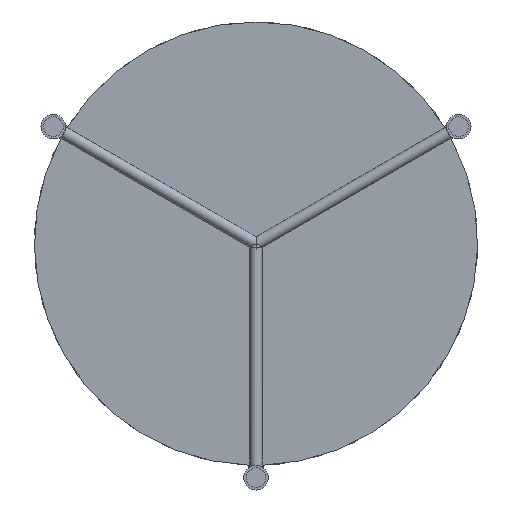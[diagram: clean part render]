
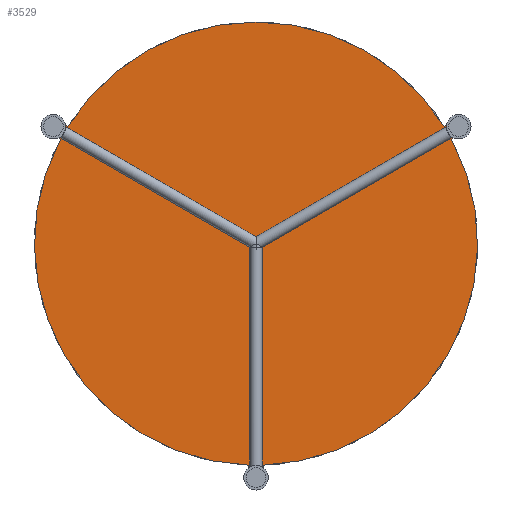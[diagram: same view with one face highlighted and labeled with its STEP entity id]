
A CAD part, front view. The second image highlights one B-rep face of the part: STEP entity #3529.
In plain terms, the highlighted planar face has unit normal (0, -1, 0).
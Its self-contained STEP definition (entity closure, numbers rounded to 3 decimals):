
#3 = EDGE_CURVE ( 'NONE', #3190, #1423, #3263, .T. ) ;
#47 = DIRECTION ( 'NONE',  ( 0., 0., -1. ) ) ;
#57 = VERTEX_POINT ( 'NONE', #2109 ) ;
#83 = DIRECTION ( 'NONE',  ( 0., 0., -1. ) ) ;
#131 = LINE ( 'NONE', #2895, #2697 ) ;
#226 = LINE ( 'NONE', #3043, #2772 ) ;
#247 = CIRCLE ( 'NONE', #3925, 10. ) ;
#278 = CARTESIAN_POINT ( 'NONE',  ( -152.798, 399., 95.146 ) ) ;
#299 = ORIENTED_EDGE ( 'NONE', *, *, #3972, .T. ) ;
#343 = CARTESIAN_POINT ( 'NONE',  ( 152.798, 399., 95.146 ) ) ;
#359 = DIRECTION ( 'NONE',  ( 0., 1., 0. ) ) ;
#362 = EDGE_CURVE ( 'NONE', #57, #1937, #3266, .T. ) ;
#375 = EDGE_CURVE ( 'NONE', #1132, #4133, #3226, .T. ) ;
#411 = VERTEX_POINT ( 'NONE', #2810 ) ;
#434 = EDGE_CURVE ( 'NONE', #2822, #57, #1760, .T. ) ;
#475 = AXIS2_PLACEMENT_3D ( 'NONE', #2046, #3164, #3120 ) ;
#506 = ORIENTED_EDGE ( 'NONE', *, *, #2373, .T. ) ;
#545 = AXIS2_PLACEMENT_3D ( 'NONE', #2568, #2250, #3615 ) ;
#562 = EDGE_CURVE ( 'NONE', #1423, #2260, #1874, .T. ) ;
#579 = ORIENTED_EDGE ( 'NONE', *, *, #3292, .T. ) ;
#656 = DIRECTION ( 'NONE',  ( 0., -1., 0. ) ) ;
#674 = DIRECTION ( 'NONE',  ( -0.866, 0., 0.5 ) ) ;
#830 = CARTESIAN_POINT ( 'NONE',  ( -160.677, 399., 85.839 ) ) ;
#852 = DIRECTION ( 'NONE',  ( 0., 0., -1. ) ) ;
#874 = CIRCLE ( 'NONE', #1074, 180. ) ;
#1074 = AXIS2_PLACEMENT_3D ( 'NONE', #1160, #2212, #83 ) ;
#1090 = VERTEX_POINT ( 'NONE', #4393 ) ;
#1092 = EDGE_CURVE ( 'NONE', #411, #2822, #3841, .T. ) ;
#1113 = ORIENTED_EDGE ( 'NONE', *, *, #1092, .T. ) ;
#1132 = VERTEX_POINT ( 'NONE', #278 ) ;
#1160 = CARTESIAN_POINT ( 'NONE',  ( 0., 399., 0. ) ) ;
#1163 = AXIS2_PLACEMENT_3D ( 'NONE', #3541, #359, #47 ) ;
#1174 = CARTESIAN_POINT ( 'NONE',  ( 0., 399., 0. ) ) ;
#1197 = CARTESIAN_POINT ( 'NONE',  ( -164.605, 399., 95.035 ) ) ;
#1204 = ORIENTED_EDGE ( 'NONE', *, *, #562, .T. ) ;
#1276 = ORIENTED_EDGE ( 'NONE', *, *, #362, .T. ) ;
#1287 = VECTOR ( 'NONE', #674, 1000. ) ;
#1343 = CARTESIAN_POINT ( 'NONE',  ( 0., 399., 0. ) ) ;
#1418 = EDGE_CURVE ( 'NONE', #4133, #2458, #247, .T. ) ;
#1423 = VERTEX_POINT ( 'NONE', #1646 ) ;
#1470 = DIRECTION ( 'NONE',  ( -0.866, 0., -0.5 ) ) ;
#1538 = VERTEX_POINT ( 'NONE', #4444 ) ;
#1646 = CARTESIAN_POINT ( 'NONE',  ( 158.798, 399., 84.754 ) ) ;
#1737 = CARTESIAN_POINT ( 'NONE',  ( -161.605, 399., 100.231 ) ) ;
#1760 = LINE ( 'NONE', #3171, #3839 ) ;
#1861 = CARTESIAN_POINT ( 'NONE',  ( -6., 399., -179.9 ) ) ;
#1874 = LINE ( 'NONE', #1904, #3340 ) ;
#1904 = CARTESIAN_POINT ( 'NONE',  ( 167.605, 399., 89.839 ) ) ;
#1937 = VERTEX_POINT ( 'NONE', #3724 ) ;
#1985 = DIRECTION ( 'NONE',  ( 0., 0., -1. ) ) ;
#2046 = CARTESIAN_POINT ( 'NONE',  ( 0., 399., 0. ) ) ;
#2109 = CARTESIAN_POINT ( 'NONE',  ( -6., 399., -182.07 ) ) ;
#2212 = DIRECTION ( 'NONE',  ( 0., -1., 0. ) ) ;
#2213 = ORIENTED_EDGE ( 'NONE', *, *, #434, .T. ) ;
#2250 = DIRECTION ( 'NONE',  ( 0., -1., 0. ) ) ;
#2260 = VERTEX_POINT ( 'NONE', #2756 ) ;
#2337 = DIRECTION ( 'NONE',  ( 0., 1., 0. ) ) ;
#2351 = DIRECTION ( 'NONE',  ( 0., 0., 1. ) ) ;
#2353 = PLANE ( 'NONE',  #3644 ) ;
#2373 = EDGE_CURVE ( 'NONE', #1090, #1132, #2538, .T. ) ;
#2458 = VERTEX_POINT ( 'NONE', #830 ) ;
#2538 = CIRCLE ( 'NONE', #475, 180. ) ;
#2568 = CARTESIAN_POINT ( 'NONE',  ( 0., 399., 0. ) ) ;
#2570 = DIRECTION ( 'NONE',  ( 0., -1., 0. ) ) ;
#2575 = CARTESIAN_POINT ( 'NONE',  ( -158.798, 399., 84.754 ) ) ;
#2697 = VECTOR ( 'NONE', #1470, 1000. ) ;
#2756 = CARTESIAN_POINT ( 'NONE',  ( 160.677, 399., 85.839 ) ) ;
#2772 = VECTOR ( 'NONE', #2351, 1000. ) ;
#2789 = ORIENTED_EDGE ( 'NONE', *, *, #375, .T. ) ;
#2810 = CARTESIAN_POINT ( 'NONE',  ( -158.798, 399., 84.754 ) ) ;
#2822 = VERTEX_POINT ( 'NONE', #1861 ) ;
#2835 = EDGE_LOOP ( 'NONE', ( #2789, #4070, #579, #1113, #2213, #1276, #2949, #4501, #1204, #299, #4066, #3654, #506 ) ) ;
#2842 = VERTEX_POINT ( 'NONE', #343 ) ;
#2846 = VECTOR ( 'NONE', #3967, 1000. ) ;
#2889 = EDGE_CURVE ( 'NONE', #1538, #2842, #131, .T. ) ;
#2895 = CARTESIAN_POINT ( 'NONE',  ( 152.798, 399., 95.146 ) ) ;
#2924 = LINE ( 'NONE', #2575, #2846 ) ;
#2949 = ORIENTED_EDGE ( 'NONE', *, *, #4235, .T. ) ;
#3043 = CARTESIAN_POINT ( 'NONE',  ( 6., 399., -179.9 ) ) ;
#3120 = DIRECTION ( 'NONE',  ( 0., 0., -1. ) ) ;
#3164 = DIRECTION ( 'NONE',  ( 0., -1., 0. ) ) ;
#3171 = CARTESIAN_POINT ( 'NONE',  ( -6., 399., -190.07 ) ) ;
#3190 = VERTEX_POINT ( 'NONE', #4316 ) ;
#3226 = LINE ( 'NONE', #1737, #1287 ) ;
#3263 = CIRCLE ( 'NONE', #3913, 180. ) ;
#3266 = CIRCLE ( 'NONE', #3916, 10. ) ;
#3292 = EDGE_CURVE ( 'NONE', #2458, #411, #2924, .T. ) ;
#3300 = DIRECTION ( 'NONE',  ( 0.866, 0., 0.5 ) ) ;
#3323 = CARTESIAN_POINT ( 'NONE',  ( 0., 399., -190.07 ) ) ;
#3340 = VECTOR ( 'NONE', #3300, 1000. ) ;
#3433 = DIRECTION ( 'NONE',  ( 0., 0., -1. ) ) ;
#3529 = ADVANCED_FACE ( 'NONE', ( #4190 ), #2353, .T. ) ;
#3541 = CARTESIAN_POINT ( 'NONE',  ( 164.605, 399., 95.035 ) ) ;
#3615 = DIRECTION ( 'NONE',  ( 0., 0., -1. ) ) ;
#3644 = AXIS2_PLACEMENT_3D ( 'NONE', #1343, #656, #3433 ) ;
#3650 = CIRCLE ( 'NONE', #1163, 10. ) ;
#3654 = ORIENTED_EDGE ( 'NONE', *, *, #4055, .T. ) ;
#3682 = DIRECTION ( 'NONE',  ( 0., 0., -1. ) ) ;
#3724 = CARTESIAN_POINT ( 'NONE',  ( 6., 399., -182.07 ) ) ;
#3839 = VECTOR ( 'NONE', #4563, 1000. ) ;
#3841 = CIRCLE ( 'NONE', #545, 180. ) ;
#3913 = AXIS2_PLACEMENT_3D ( 'NONE', #1174, #2570, #852 ) ;
#3916 = AXIS2_PLACEMENT_3D ( 'NONE', #3323, #4025, #3682 ) ;
#3925 = AXIS2_PLACEMENT_3D ( 'NONE', #1197, #2337, #1985 ) ;
#3967 = DIRECTION ( 'NONE',  ( 0.866, 0., -0.5 ) ) ;
#3972 = EDGE_CURVE ( 'NONE', #2260, #1538, #3650, .T. ) ;
#4025 = DIRECTION ( 'NONE',  ( 0., 1., 0. ) ) ;
#4055 = EDGE_CURVE ( 'NONE', #2842, #1090, #874, .T. ) ;
#4066 = ORIENTED_EDGE ( 'NONE', *, *, #2889, .T. ) ;
#4070 = ORIENTED_EDGE ( 'NONE', *, *, #1418, .T. ) ;
#4087 = CARTESIAN_POINT ( 'NONE',  ( -154.677, 399., 96.231 ) ) ;
#4133 = VERTEX_POINT ( 'NONE', #4087 ) ;
#4190 = FACE_OUTER_BOUND ( 'NONE', #2835, .T. ) ;
#4235 = EDGE_CURVE ( 'NONE', #1937, #3190, #226, .T. ) ;
#4316 = CARTESIAN_POINT ( 'NONE',  ( 6., 399., -179.9 ) ) ;
#4393 = CARTESIAN_POINT ( 'NONE',  ( 0., 399., 180. ) ) ;
#4444 = CARTESIAN_POINT ( 'NONE',  ( 154.677, 399., 96.231 ) ) ;
#4501 = ORIENTED_EDGE ( 'NONE', *, *, #3, .T. ) ;
#4563 = DIRECTION ( 'NONE',  ( 0., 0., -1. ) ) ;
